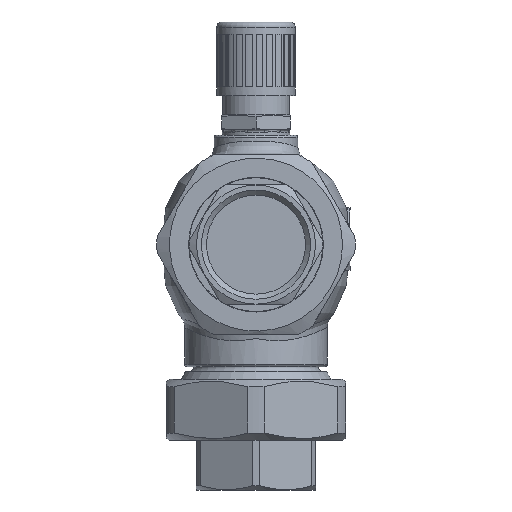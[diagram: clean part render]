
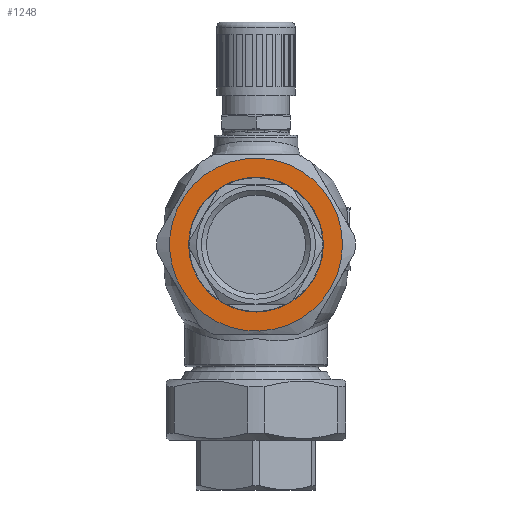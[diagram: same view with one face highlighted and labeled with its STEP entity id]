
A CAD part, left-side view. The second image highlights one B-rep face of the part: STEP entity #1248.
In plain terms, the highlighted planar face has unit normal (-1, 0, 0).
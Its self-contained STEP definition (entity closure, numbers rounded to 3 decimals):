
#1248=ADVANCED_FACE('',(#1802,#1803),#1596,.T.);
#1596=PLANE('',#5539);
#1802=FACE_BOUND('',#2051,.T.);
#1803=FACE_BOUND('',#2052,.T.);
#2051=EDGE_LOOP('',(#2556));
#2052=EDGE_LOOP('',(#2557));
#2556=ORIENTED_EDGE('',*,*,#4511,.T.);
#2557=ORIENTED_EDGE('',*,*,#4512,.T.);
#4002=VERTEX_POINT('',#7767);
#4003=VERTEX_POINT('',#7769);
#4511=EDGE_CURVE('',#4002,#4002,#5226,.T.);
#4512=EDGE_CURVE('',#4003,#4003,#5227,.T.);
#5226=CIRCLE('',#5537,26.5);
#5227=CIRCLE('',#5538,34.);
#5537=AXIS2_PLACEMENT_3D('',#7766,#6207,#6208);
#5538=AXIS2_PLACEMENT_3D('',#7768,#6209,#6210);
#5539=AXIS2_PLACEMENT_3D('',#7770,#6211,#6212);
#6207=DIRECTION('',(1.,0.,0.));
#6208=DIRECTION('',(0.,1.,0.));
#6209=DIRECTION('',(-1.,0.,0.));
#6210=DIRECTION('',(0.,-1.,0.));
#6211=DIRECTION('',(-1.,0.,0.));
#6212=DIRECTION('',(0.,-1.,0.));
#7766=CARTESIAN_POINT('',(23.,0.,100.));
#7767=CARTESIAN_POINT('',(23.,26.5,100.));
#7768=CARTESIAN_POINT('',(23.,0.,100.));
#7769=CARTESIAN_POINT('',(23.,-34.,100.));
#7770=CARTESIAN_POINT('',(23.,0.,100.));
